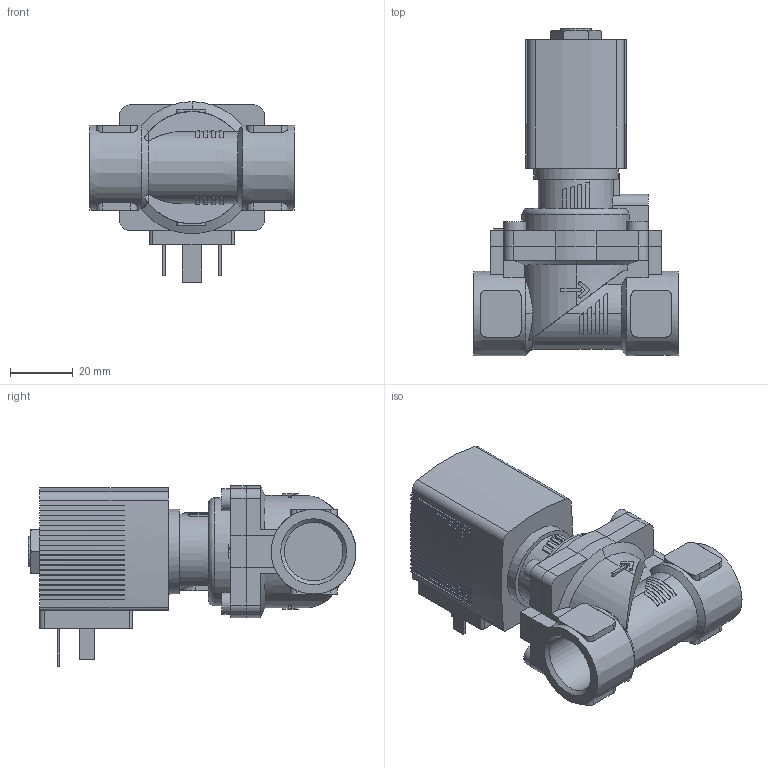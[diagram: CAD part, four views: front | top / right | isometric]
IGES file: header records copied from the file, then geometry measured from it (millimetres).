
Start section: Data from Parasolid IGES Translator 26.0.171, Copyright(c) 2006 Siemens PLM Software. All Rights Reserved.
Global section: file name: 6281-286144-2_2-Way_Solenoid_Valve__Servo-assisted__General_Purpose.igs; native system: By Siemens PLM Incorporated; preprocessor: XPlus GENERIC/IGES 26.0.171; author: Noname; organization: Noname; date: 20240510.131056; units: millimetre
Bounding box: 65 x 104.5 x 57.5 mm (x, y, z)
Surface area: 30115.8 mm2 (no closed solid volume)
Topology: 0 solids, 0 shells, 563 faces, 3164 edges, 3157 vertices
Faces by surface type: extrusion 435, revolution 128
